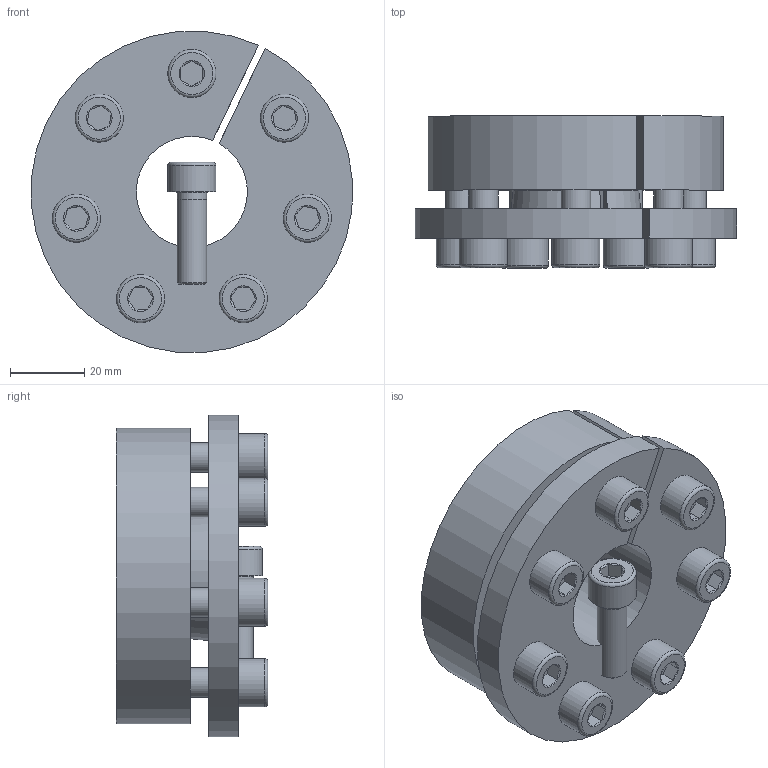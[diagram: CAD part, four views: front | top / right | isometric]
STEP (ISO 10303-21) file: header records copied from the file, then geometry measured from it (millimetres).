
FILE_DESCRIPTION( ( 'Unknown' ), '1' );
FILE_NAME( 'C:/Dokumente und Einstellungen/Sven/Desktop/15/KBS 15 - 30 x 80.stp', 'Unknown', ( 'Unknown' ), ( 'Unknown' ), 'XStep 1.0', 'Unknown', ' ' );
FILE_SCHEMA( ( 'automotive_design' ) );
Length unit declared in the file: millimetre
Products named in the file (3): Assem1; ISO EN DIN 4762 M8x25_13; KBS 15 - 30 x 80_0
Bounding box: 86.78 x 41 x 86.75 mm (x, y, z)
Volume: 256468 mm3; surface area: 78064.9 mm2
Topology: 10 solids, 10 shells, 252 faces, 524 edges, 324 vertices
Faces by surface type: plane 110, cylinder 66, cone 60, torus 16
Full cylindrical faces by diameter (mm): 6.647 x14, 7 x8, 8 x16, 9 x14, 13 x8
Entity records: 1696 total; most frequent: CARTESIAN_POINT 278, DIRECTION 258, ORIENTED_EDGE 186, AXIS2_PLACEMENT_3D 115, EDGE_LOOP 104, EDGE_CURVE 93, FACE_OUTER_BOUND 71, VERTEX_POINT 71
